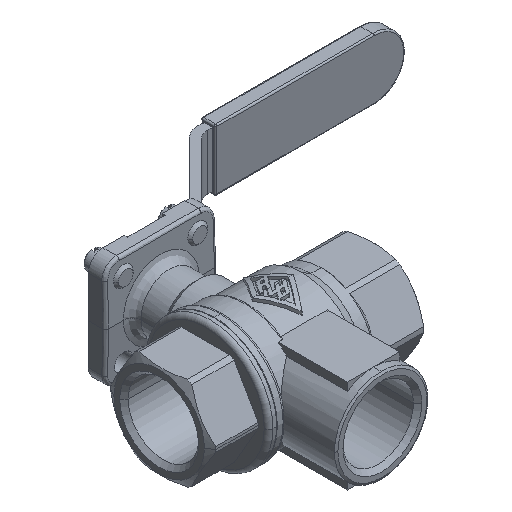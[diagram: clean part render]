
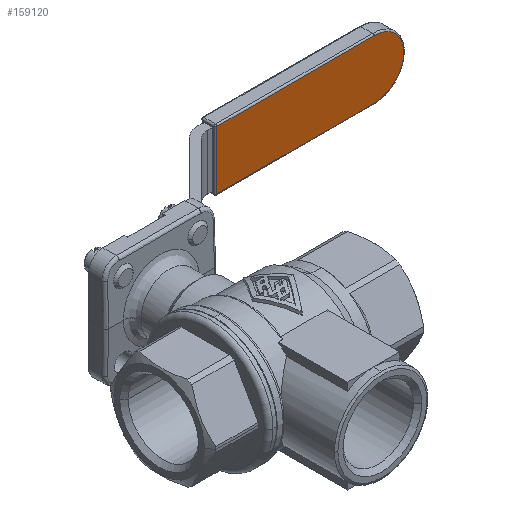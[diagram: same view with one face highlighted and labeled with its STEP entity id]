
A CAD part, isometric view. The second image highlights one B-rep face of the part: STEP entity #159120.
In plain terms, the highlighted planar face has unit normal (0, -1, 0).
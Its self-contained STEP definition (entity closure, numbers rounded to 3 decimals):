
#129350=CARTESIAN_POINT('',(-50.5,67.7,-10.));
#129360=VERTEX_POINT('',#129350);
#140750=CARTESIAN_POINT('',(-104.291,67.7,-10.));
#140760=VERTEX_POINT('',#140750);
#140790=CARTESIAN_POINT('',(0.,67.7,-10.))
;
#140800=DIRECTION('',(1.,0.,0.));
#140810=VECTOR('',#140800,1.);
#140820=LINE('',#140790,#140810);
#140830=EDGE_CURVE('',#140760,#129360,#140820,.T.);
#144100=CARTESIAN_POINT('',(-50.5,67.7,10.));
#144110=VERTEX_POINT('',#144100);
#145960=CARTESIAN_POINT('',(0.,67.7,10.));
#145970=DIRECTION('',(-1.,0.,0.));
#145980=VECTOR('',#145970,1.);
#145990=LINE('',#145960,#145980);
#146000=CARTESIAN_POINT('',(-104.709,67.7,10.));
#146010=VERTEX_POINT('',#146000);
#146020=EDGE_CURVE('',#144110,#146010,#145990,.T.);
#154520=CARTESIAN_POINT('',(-50.5,67.7,0.));
#154530=DIRECTION('',(0.,0.,1.));
#154540=VECTOR('',#154530,1.);
#154550=LINE('',#154520,#154540);
#154560=EDGE_CURVE('',#129360,#144110,#154550,.T.);
#157800=CARTESIAN_POINT('',(-104.5,67.7,-10.002));
#157810=VERTEX_POINT('',#157800);
#157840=CARTESIAN_POINT('',(-104.5,67.7,0.
));
#157850=DIRECTION('',(0.,-1.,0.));
#157860=DIRECTION('',(0.,0.,-1.));
#157870=AXIS2_PLACEMENT_3D('',#157840,#157850,#157860);
#157880=CIRCLE('',#157870,10.002);
#157890=EDGE_CURVE('',#157810,#140760,#157880,.T.);
#158990=CARTESIAN_POINT('',(-114.,67.7,0.));
#159000=DIRECTION('',(0.,-1.,0.));
#159010=DIRECTION('',(1.,0.,0.));
#159020=AXIS2_PLACEMENT_3D('',#158990,#159000,#159010);
#159030=PLANE('',#159020);
#159040=ORIENTED_EDGE('',*,*,#140830,.T.);
#159050=ORIENTED_EDGE('',*,*,#157890,.T.);
#159060=EDGE_CURVE('',#146010,#157810,#157880,.T.);
#159070=ORIENTED_EDGE('',*,*,#159060,.T.);
#159080=ORIENTED_EDGE('',*,*,#146020,.T.);
#159090=ORIENTED_EDGE('',*,*,#154560,.T.);
#159100=EDGE_LOOP('',(#159090,#159080,#159070,#159050,#159040));
#159110=FACE_OUTER_BOUND('',#159100,.T.);
#159120=ADVANCED_FACE('',(#159110),#159030,.T.);
